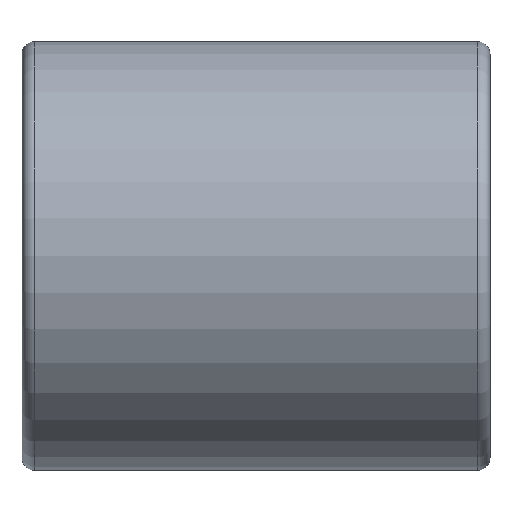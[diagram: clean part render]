
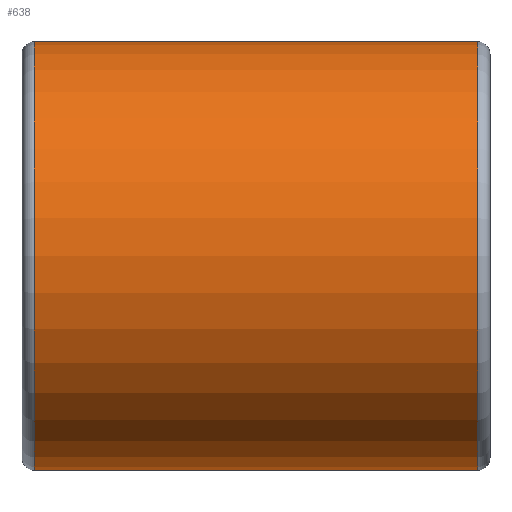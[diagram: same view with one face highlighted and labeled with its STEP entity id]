
A CAD part, top view. The second image highlights one B-rep face of the part: STEP entity #638.
In plain terms, the highlighted cylindrical face has radius 8.725 mm (diameter 17.45 mm), a partial arc.
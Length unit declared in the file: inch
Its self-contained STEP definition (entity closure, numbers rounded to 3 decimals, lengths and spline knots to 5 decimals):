
#267=DIRECTION('',(-1.,0.,0.));
#268=VECTOR('',#267,0.71);
#269=CARTESIAN_POINT('',(0.355,0.3435,0.));
#270=LINE('',#269,#268);
#274=DIRECTION('',(-1.,0.,0.));
#275=VECTOR('',#274,0.71);
#276=CARTESIAN_POINT('',(0.355,-0.3435,0.));
#277=LINE('',#276,#275);
#289=CARTESIAN_POINT('',(0.355,0.,0.));
#290=DIRECTION('',(1.,0.,0.));
#291=DIRECTION('',(0.,1.,0.));
#292=AXIS2_PLACEMENT_3D('',#289,#290,#291);
#297=CARTESIAN_POINT('',(-0.355,0.,0.));
#298=DIRECTION('',(1.,0.,0.));
#299=DIRECTION('',(0.,1.,0.));
#300=AXIS2_PLACEMENT_3D('',#297,#298,#299);
#342=CARTESIAN_POINT('',(0.355,0.3435,0.));
#344=VERTEX_POINT('',#342);
#345=CARTESIAN_POINT('',(-0.355,0.3435,0.));
#346=VERTEX_POINT('',#345);
#366=CARTESIAN_POINT('',(0.355,-0.3435,0.));
#368=VERTEX_POINT('',#366);
#369=CARTESIAN_POINT('',(-0.355,-0.3435,0.));
#370=VERTEX_POINT('',#369);
#626=CARTESIAN_POINT('',(-0.4125,0.,0.));
#627=DIRECTION('',(1.,0.,0.));
#628=DIRECTION('',(0.,-1.,0.));
#629=AXIS2_PLACEMENT_3D('',#626,#627,#628);
#630=CYLINDRICAL_SURFACE('',#629,0.3435);
#631=ORIENTED_EDGE('',*,*,#616,.F.);
#632=ORIENTED_EDGE('',*,*,#593,.T.);
#633=ORIENTED_EDGE('',*,*,#620,.T.);
#635=ORIENTED_EDGE('',*,*,#634,.F.);
#636=EDGE_LOOP('',(#631,#632,#633,#635));
#637=FACE_OUTER_BOUND('',#636,.F.);
#293=CIRCLE('',#292,0.3435);
#301=CIRCLE('',#300,0.3435);
#593=EDGE_CURVE('',#344,#368,#293,.T.);
#616=EDGE_CURVE('',#344,#346,#270,.T.);
#620=EDGE_CURVE('',#368,#370,#277,.T.);
#634=EDGE_CURVE('',#346,#370,#301,.T.);
#638=ADVANCED_FACE('',(#637),#630,.T.);
